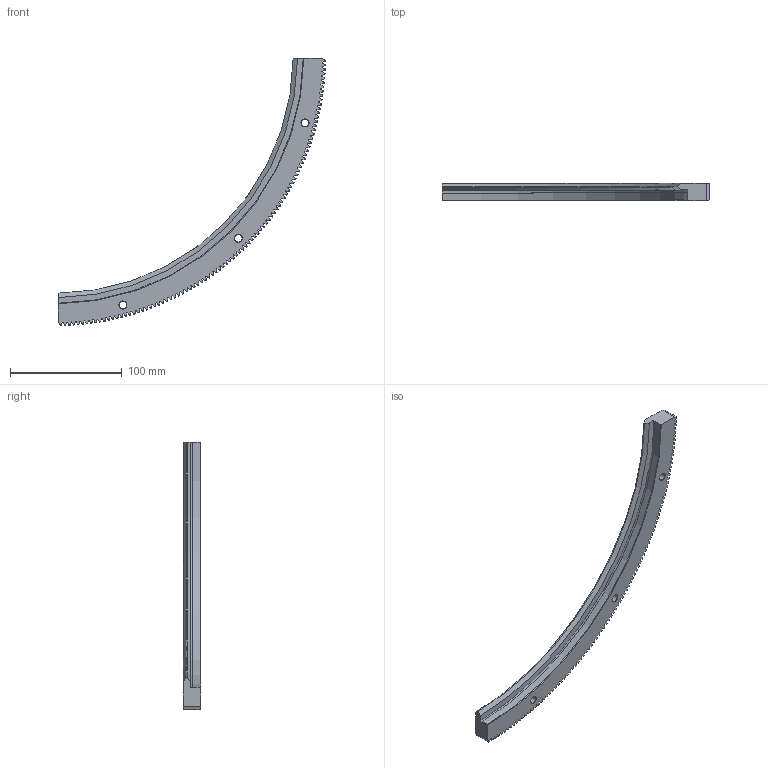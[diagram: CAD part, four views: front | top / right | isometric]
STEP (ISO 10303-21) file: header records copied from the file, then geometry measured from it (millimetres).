
FILE_DESCRIPTION( ( 'STEP AP203' ), '1' );
FILE_NAME( 'p:/temp/worker_3/temp/exporttempdir_3668_839_gfaxY/format_0/RIM 482 R90 P.stp', '2021-09-21T06:35:16', ( 'License CC BY-ND 4.0' ), ( 'CADENAS' ), ' ', 'PARTsolutions', ' ' );
FILE_SCHEMA( ( 'CONFIG_CONTROL_DESIGN' ) );
Length unit declared in the file: millimetre
Products named in the file (1): _RIM 482 R90 P
Bounding box: 239.23 x 15.5 x 239.23 mm (x, y, z)
Volume: 114979.2 mm3; surface area: 36856.1 mm2
Topology: 1 solids, 1 shells, 594 faces, 1764 edges, 1175 vertices
Faces by surface type: plane 389, cylinder 103, cone 101, torus 1
Full cylindrical faces by diameter (mm): 6.8 x3, 11 x3
Entity records: 19992 total; most frequent: CARTESIAN_POINT 4129, ORIENTED_EDGE 3510, DIRECTION 3056, EDGE_CURVE 1755, LINE 1248, VECTOR 1248, VERTEX_POINT 1175, AXIS2_PLACEMENT_3D 904
